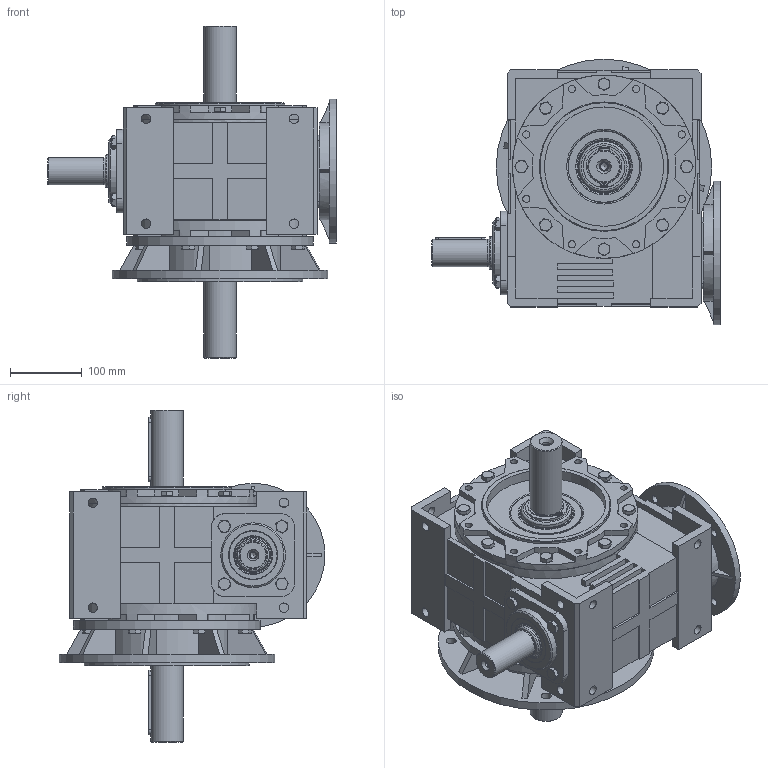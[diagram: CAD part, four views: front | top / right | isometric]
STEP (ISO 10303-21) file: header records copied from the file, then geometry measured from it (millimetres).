
FILE_DESCRIPTION (( 'STEP AP203' ), '1' );
FILE_NAME ('MR-120_80B5+WBS_K300_1_WD_1_3D.STEP', '2019-01-23T12:14:55', ( 'Biuro' ), ( 'Microsoft' ), 'SwSTEP 2.0', 'SolidWorks 2013', '' );
FILE_SCHEMA (( 'CONFIG_CONTROL_DESIGN' ));
Length unit declared in the file: millimetre
Products named in the file (1): MR-120_80B5+WBS_K300_1_WD_1_3D
Bounding box: 402 x 370 x 462 mm (x, y, z)
Volume: 15459212.5 mm3; surface area: 967425.3 mm2
Topology: 1 solids, 32 shells, 1466 faces, 3647 edges, 2315 vertices
Faces by surface type: plane 869, cylinder 363, cone 181, torus 52, bspline 1
Full cylindrical faces by diameter (mm): 2.5 x2, 8.5 x9, 10 x32, 10.2 x2, 10.5 x5, 11 x16, 13 x14, 14 x4, 16 x24, 19 x1, 26 x1, 37.6 x1, 38 x1, 42.5 x1, 44.6 x3, 45 x7, 45.2 x1, 54 x1, 55 x2, 58 x1, 60 x1, 60.861 x1, 68 x2, 70 x2, 76 x1, 80 x1, 90 x2, 100 x2, 129.5 x1, 130 x1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
Entity records: 42841 total; most frequent: CARTESIAN_POINT 8990, DIRECTION 7197, ORIENTED_EDGE 6560, EDGE_CURVE 3280, AXIS2_PLACEMENT_3D 2720, VERTEX_POINT 2205, EDGE_LOOP 1891, VECTOR 1757
